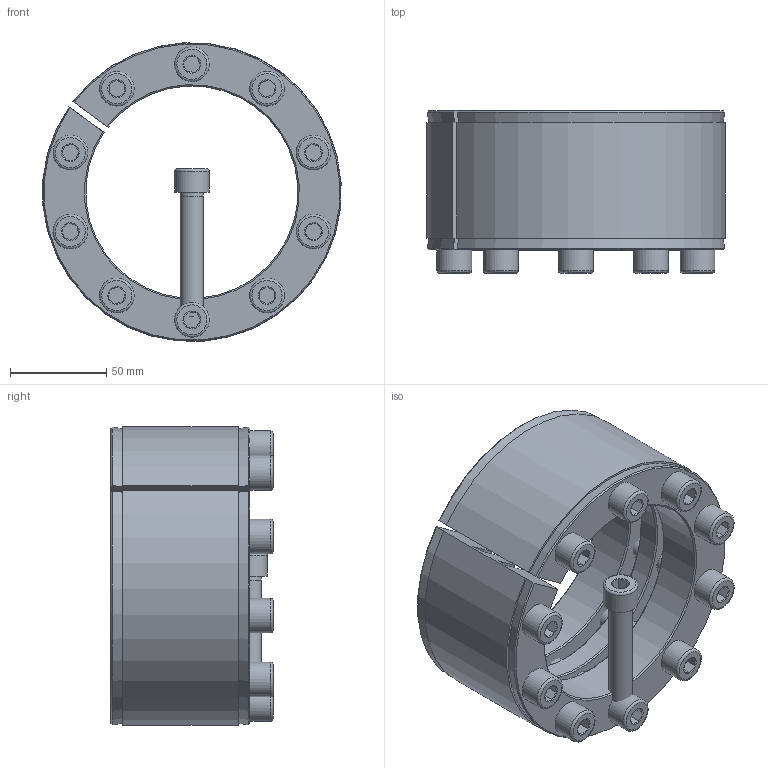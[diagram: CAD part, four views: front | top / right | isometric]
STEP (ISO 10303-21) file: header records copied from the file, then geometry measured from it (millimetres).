
FILE_DESCRIPTION( ( 'Unknown' ), '1' );
FILE_NAME( 'C:/Users/Frank/Eigene Daten/CAD/Solid Edge/KBK Karpstein/KBS Layout Baureihen/KBS 18/KBS - 110 x 155.stp', 'Unknown', ( 'Unknown' ), ( 'Unknown' ), 'XStep 1.0', 'Unknown', ' ' );
FILE_SCHEMA( ( 'automotive_design' ) );
Length unit declared in the file: millimetre
Products named in the file (3): Assem1; ISO EN DIN 4762 M12x65; KBS 18 - 110 x 155
Bounding box: 154.55 x 84 x 154.66 mm (x, y, z)
Volume: 1123805.8 mm3; surface area: 290966.5 mm2
Topology: 13 solids, 13 shells, 407 faces, 917 edges, 540 vertices
Faces by surface type: plane 172, cylinder 112, cone 101, torus 22
Full cylindrical faces by diameter (mm): 10.106 x20, 11 x11, 12 x22, 13 x40, 18 x11
Entity records: 3806 total; most frequent: CARTESIAN_POINT 859, DIRECTION 524, ORIENTED_EDGE 434, AXIS2_PLACEMENT_3D 244, EDGE_CURVE 217, EDGE_LOOP 172, VERTEX_POINT 151, CIRCLE 141
